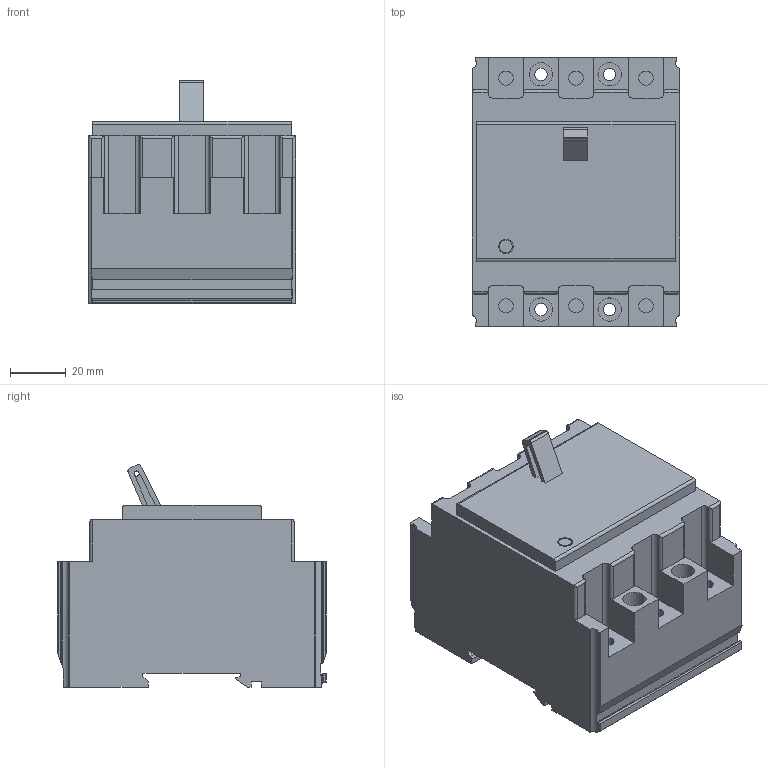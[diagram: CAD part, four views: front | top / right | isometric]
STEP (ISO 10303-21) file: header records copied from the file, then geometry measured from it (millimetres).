
FILE_DESCRIPTION (( 'STEP AP203' ), '1' );
FILE_NAME ('BN Type 3P.STEP', '2018-01-04T01:21:22', ( '' ), ( '' ), 'SwSTEP 2.0', 'SolidWorks 2015', '' );
FILE_SCHEMA (( 'CONFIG_CONTROL_DESIGN' ));
Length unit declared in the file: millimetre
Products named in the file (1): BN Type 3P
Bounding box: 74 x 96 x 79.58 mm (x, y, z)
Volume: 376955.9 mm3; surface area: 44883.9 mm2
Topology: 1 solids, 1 shells, 227 faces, 619 edges, 406 vertices
Faces by surface type: cylinder 114, plane 113
Entity records: 7533 total; most frequent: CARTESIAN_POINT 1614, ORIENTED_EDGE 1238, DIRECTION 1215, EDGE_CURVE 619, AXIS2_PLACEMENT_3D 409, VERTEX_POINT 406, LINE 397, VECTOR 397
